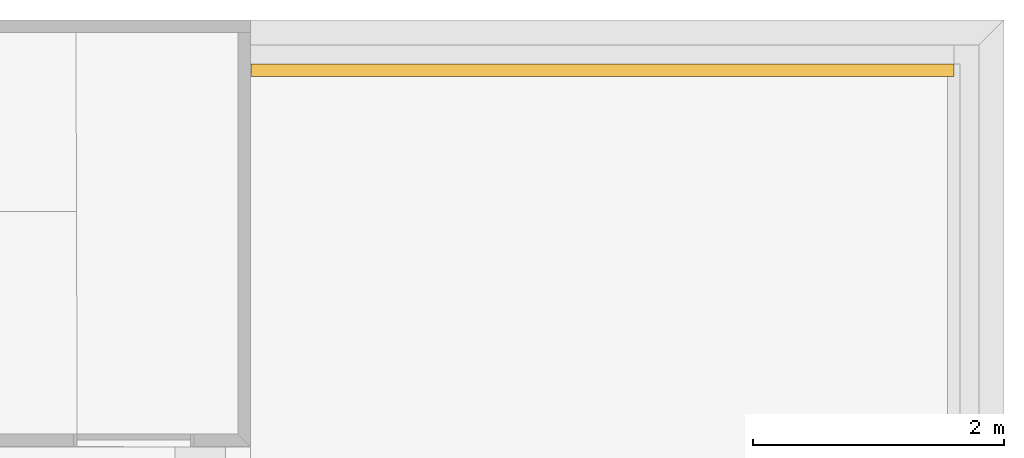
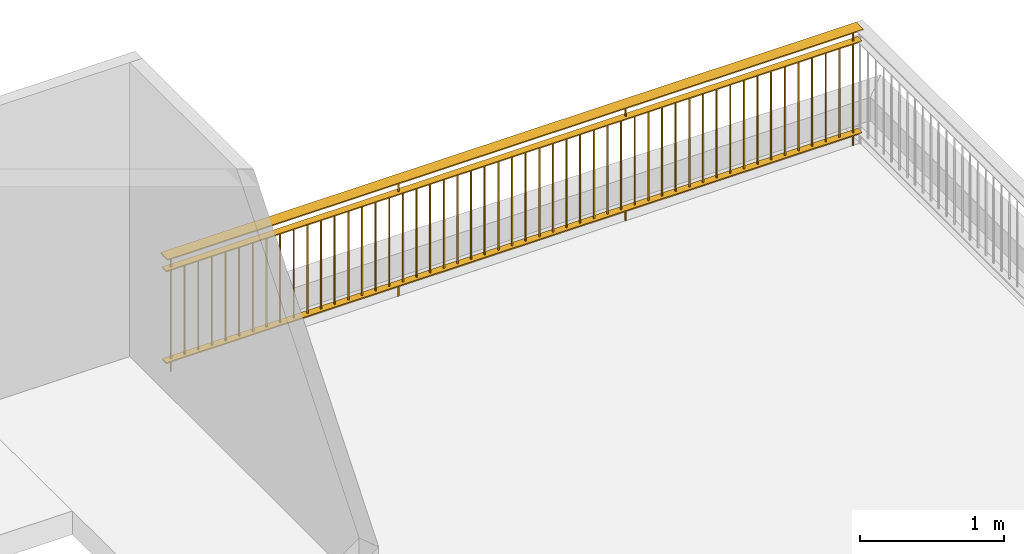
# One storey, part 2 of 2: 1 railing.
"""IFC2X3 building model written with IfcOpenShell, lengths in millimetres."""

from ifc_helpers import new_model, entity, si_unit, converted_unit, direction, frame, origin_with_axes, place, context, project, spatial, faceted_brep, source, transform, mapped, material, element, save


model = new_model("IFC2X3")

# Units and contexts
model_context = context("Model", 3, precision=1e-05, world=origin_with_axes(), true_north=direction((0.0, 1.0)))
ifc_project = project(units=[si_unit("LENGTHUNIT", "METRE", prefix="MILLI"), si_unit("AREAUNIT", "SQUARE_METRE"), si_unit("VOLUMEUNIT", "CUBIC_METRE"), converted_unit("PLANEANGLEUNIT", "DEGREE", entity("IfcPlaneAngleMeasure", 0.017453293), si_unit("PLANEANGLEUNIT", "RADIAN"), dimensions=[0, 0, 0, 0, 0, 0, 0]), si_unit("SOLIDANGLEUNIT", "STERADIAN"), si_unit("MASSUNIT", "GRAM"), si_unit("TIMEUNIT", "SECOND"), si_unit("THERMODYNAMICTEMPERATUREUNIT", "DEGREE_CELSIUS"), si_unit("LUMINOUSINTENSITYUNIT", "LUMEN")], contexts=[model_context])

# Site, building, storey
site_placement = place(None, origin_with_axes())
site = spatial("IfcSite", under=ifc_project, at=site_placement, Name="\x83T\x83C\x83g", CompositionType="ELEMENT")
building_placement = place(site_placement, origin_with_axes())
building = spatial("IfcBuilding", under=site, at=building_placement, Name="Daitec-Sample 201208", CompositionType="ELEMENT")
storey_placement = place(building_placement, frame((0.0, 0.0, 12000.0), z_axis=(0.0, 0.0, 1.0), x_axis=(1.0, 0.0, 0.0)))
storey = spatial("IfcBuildingStorey", under=building, at=storey_placement, Name="RF", CompositionType="ELEMENT", Elevation=12000.0)

# Railing
ifc_material = material(Name="\x94w\x8ci")
shared_shape = source(origin_with_axes(), model_context, "Body", "Brep", [
    faceted_brep([(0.0, -50.0, 990.0), (0.0, -50.0, 1000.0), (-5595.866, -50.0, 1000.0), (-5595.866, -50.0, 990.0), (0.0, 50.0, 990.0), (0.0, 50.0, 1000.0), (-5595.866, 50.0, 1000.0), (-5595.866, 50.0, 990.0)], [[[0, 1, 2, 3]], [[4, 5, 1, 0]], [[1, 5, 6, 2]], [[3, 2, 6, 7]], [[0, 3, 7, 4]], [[7, 6, 5, 4]]]),
    faceted_brep([(0.0, -30.0, 880.0), (0.0, -30.0, 890.0), (-5595.866, -30.0, 890.0), (-5595.866, -30.0, 880.0), (0.0, 30.0, 880.0), (0.0, 30.0, 890.0), (-5595.866, 30.0, 890.0), (-5595.866, 30.0, 880.0)], [[[0, 1, 2, 3]], [[4, 5, 1, 0]], [[1, 5, 6, 2]], [[3, 2, 6, 7]], [[0, 3, 7, 4]], [[7, 6, 5, 4]]]),
    faceted_brep([(0.0, -30.0, 100.0), (0.0, -30.0, 110.0), (-5595.866, -30.0, 110.0), (-5595.866, -30.0, 100.0), (0.0, 30.0, 100.0), (0.0, 30.0, 110.0), (-5595.866, 30.0, 110.0), (-5595.866, 30.0, 100.0)], [[[0, 1, 2, 3]], [[4, 5, 1, 0]], [[1, 5, 6, 2]], [[3, 2, 6, 7]], [[0, 3, 7, 4]], [[7, 6, 5, 4]]]),
    faceted_brep([(-49.861431, -5.0, 110.0), (-49.861431, -5.0, 880.0), (-59.861431, -5.0, 880.0), (-59.861431, -5.0, 110.0), (-49.861431, 5.0, 110.0), (-49.861431, 5.0, 880.0), (-59.861431, 5.0, 880.0), (-59.861431, 5.0, 110.0)], [[[0, 1, 2, 3]], [[4, 5, 1, 0]], [[1, 5, 6, 2]], [[3, 2, 6, 7]], [[0, 3, 7, 4]], [[7, 6, 5, 4]]]),
    faceted_brep([(-159.58429, -5.0, 110.0), (-159.58429, -5.0, 880.0), (-169.58429, -5.0, 880.0), (-169.58429, -5.0, 110.0), (-159.58429, 5.0, 110.0), (-159.58429, 5.0, 880.0), (-169.58429, 5.0, 880.0), (-169.58429, 5.0, 110.0)], [[[0, 1, 2, 3]], [[4, 5, 1, 0]], [[1, 5, 6, 2]], [[3, 2, 6, 7]], [[0, 3, 7, 4]], [[7, 6, 5, 4]]]),
    faceted_brep([(-269.30716, -5.0, 110.0), (-269.30716, -5.0, 880.0), (-279.30716, -5.0, 880.0), (-279.30716, -5.0, 110.0), (-269.30716, 5.0, 110.0), (-269.30716, 5.0, 880.0), (-279.30716, 5.0, 880.0), (-279.30716, 5.0, 110.0)], [[[0, 1, 2, 3]], [[4, 5, 1, 0]], [[1, 5, 6, 2]], [[3, 2, 6, 7]], [[0, 3, 7, 4]], [[7, 6, 5, 4]]]),
    faceted_brep([(-379.03002, -5.0, 110.0), (-379.03002, -5.0, 880.0), (-389.03002, -5.0, 880.0), (-389.03002, -5.0, 110.0), (-379.03002, 5.0, 110.0), (-379.03002, 5.0, 880.0), (-389.03002, 5.0, 880.0), (-389.03002, 5.0, 110.0)], [[[0, 1, 2, 3]], [[4, 5, 1, 0]], [[1, 5, 6, 2]], [[3, 2, 6, 7]], [[0, 3, 7, 4]], [[7, 6, 5, 4]]]),
    faceted_brep([(-488.75288, -5.0, 110.0), (-488.75288, -5.0, 880.0), (-498.75288, -5.0, 880.0), (-498.75288, -5.0, 110.0), (-488.75288, 5.0, 110.0), (-488.75288, 5.0, 880.0), (-498.75288, 5.0, 880.0), (-498.75288, 5.0, 110.0)], [[[0, 1, 2, 3]], [[4, 5, 1, 0]], [[1, 5, 6, 2]], [[3, 2, 6, 7]], [[0, 3, 7, 4]], [[7, 6, 5, 4]]]),
    faceted_brep([(-598.47575, -5.0, 110.0), (-598.47575, -5.0, 880.0), (-608.47575, -5.0, 880.0), (-608.47575, -5.0, 110.0), (-598.47575, 5.0, 110.0), (-598.47575, 5.0, 880.0), (-608.47575, 5.0, 880.0), (-608.47575, 5.0, 110.0)], [[[0, 1, 2, 3]], [[4, 5, 1, 0]], [[1, 5, 6, 2]], [[3, 2, 6, 7]], [[0, 3, 7, 4]], [[7, 6, 5, 4]]]),
    faceted_brep([(-708.19861, -5.0, 110.0), (-708.19861, -5.0, 880.0), (-718.19861, -5.0, 880.0), (-718.19861, -5.0, 110.0), (-708.19861, 5.0, 110.0), (-708.19861, 5.0, 880.0), (-718.19861, 5.0, 880.0), (-718.19861, 5.0, 110.0)], [[[0, 1, 2, 3]], [[4, 5, 1, 0]], [[1, 5, 6, 2]], [[3, 2, 6, 7]], [[0, 3, 7, 4]], [[7, 6, 5, 4]]]),
    faceted_brep([(-817.92147, -5.0, 110.0), (-817.92147, -5.0, 880.0), (-827.92147, -5.0, 880.0), (-827.92147, -5.0, 110.0), (-817.92147, 5.0, 110.0), (-817.92147, 5.0, 880.0), (-827.92147, 5.0, 880.0), (-827.92147, 5.0, 110.0)], [[[0, 1, 2, 3]], [[4, 5, 1, 0]], [[1, 5, 6, 2]], [[3, 2, 6, 7]], [[0, 3, 7, 4]], [[7, 6, 5, 4]]]),
    faceted_brep([(-927.64433, -5.0, 110.0), (-927.64433, -5.0, 880.0), (-937.64433, -5.0, 880.0), (-937.64433, -5.0, 110.0), (-927.64433, 5.0, 110.0), (-927.64433, 5.0, 880.0), (-937.64433, 5.0, 880.0), (-937.64433, 5.0, 110.0)], [[[0, 1, 2, 3]], [[4, 5, 1, 0]], [[1, 5, 6, 2]], [[3, 2, 6, 7]], [[0, 3, 7, 4]], [[7, 6, 5, 4]]]),
    faceted_brep([(-1037.3672, -5.0, 110.0), (-1037.3672, -5.0, 880.0), (-1047.3672, -5.0, 880.0), (-1047.3672, -5.0, 110.0), (-1037.3672, 5.0, 110.0), (-1037.3672, 5.0, 880.0), (-1047.3672, 5.0, 880.0), (-1047.3672, 5.0, 110.0)], [[[0, 1, 2, 3]], [[4, 5, 1, 0]], [[1, 5, 6, 2]], [[3, 2, 6, 7]], [[0, 3, 7, 4]], [[7, 6, 5, 4]]]),
    faceted_brep([(-1147.0901, -5.0, 110.0), (-1147.0901, -5.0, 880.0), (-1157.0901, -5.0, 880.0), (-1157.0901, -5.0, 110.0), (-1147.0901, 5.0, 110.0), (-1147.0901, 5.0, 880.0), (-1157.0901, 5.0, 880.0), (-1157.0901, 5.0, 110.0)], [[[0, 1, 2, 3]], [[4, 5, 1, 0]], [[1, 5, 6, 2]], [[3, 2, 6, 7]], [[0, 3, 7, 4]], [[7, 6, 5, 4]]]),
    faceted_brep([(-1256.8129, -5.0, 110.0), (-1256.8129, -5.0, 880.0), (-1266.8129, -5.0, 880.0), (-1266.8129, -5.0, 110.0), (-1256.8129, 5.0, 110.0), (-1256.8129, 5.0, 880.0), (-1266.8129, 5.0, 880.0), (-1266.8129, 5.0, 110.0)], [[[0, 1, 2, 3]], [[4, 5, 1, 0]], [[1, 5, 6, 2]], [[3, 2, 6, 7]], [[0, 3, 7, 4]], [[7, 6, 5, 4]]]),
    faceted_brep([(-1366.5358, -5.0, 110.0), (-1366.5358, -5.0, 880.0), (-1376.5358, -5.0, 880.0), (-1376.5358, -5.0, 110.0), (-1366.5358, 5.0, 110.0), (-1366.5358, 5.0, 880.0), (-1376.5358, 5.0, 880.0), (-1376.5358, 5.0, 110.0)], [[[0, 1, 2, 3]], [[4, 5, 1, 0]], [[1, 5, 6, 2]], [[3, 2, 6, 7]], [[0, 3, 7, 4]], [[7, 6, 5, 4]]]),
    faceted_brep([(-1476.2586, -5.0, 110.0), (-1476.2586, -5.0, 880.0), (-1486.2586, -5.0, 880.0), (-1486.2586, -5.0, 110.0), (-1476.2586, 5.0, 110.0), (-1476.2586, 5.0, 880.0), (-1486.2586, 5.0, 880.0), (-1486.2586, 5.0, 110.0)], [[[0, 1, 2, 3]], [[4, 5, 1, 0]], [[1, 5, 6, 2]], [[3, 2, 6, 7]], [[0, 3, 7, 4]], [[7, 6, 5, 4]]]),
    faceted_brep([(-1585.9815, -5.0, 110.0), (-1585.9815, -5.0, 880.0), (-1595.9815, -5.0, 880.0), (-1595.9815, -5.0, 110.0), (-1585.9815, 5.0, 110.0), (-1585.9815, 5.0, 880.0), (-1595.9815, 5.0, 880.0), (-1595.9815, 5.0, 110.0)], [[[0, 1, 2, 3]], [[4, 5, 1, 0]], [[1, 5, 6, 2]], [[3, 2, 6, 7]], [[0, 3, 7, 4]], [[7, 6, 5, 4]]]),
    faceted_brep([(-1695.7044, -5.0, 110.0), (-1695.7044, -5.0, 880.0), (-1705.7044, -5.0, 880.0), (-1705.7044, -5.0, 110.0), (-1695.7044, 5.0, 110.0), (-1695.7044, 5.0, 880.0), (-1705.7044, 5.0, 880.0), (-1705.7044, 5.0, 110.0)], [[[0, 1, 2, 3]], [[4, 5, 1, 0]], [[1, 5, 6, 2]], [[3, 2, 6, 7]], [[0, 3, 7, 4]], [[7, 6, 5, 4]]]),
    faceted_brep([(-1805.4272, -5.0, 110.0), (-1805.4272, -5.0, 880.0), (-1815.4272, -5.0, 880.0), (-1815.4272, -5.0, 110.0), (-1805.4272, 5.0, 110.0), (-1805.4272, 5.0, 880.0), (-1815.4272, 5.0, 880.0), (-1815.4272, 5.0, 110.0)], [[[0, 1, 2, 3]], [[4, 5, 1, 0]], [[1, 5, 6, 2]], [[3, 2, 6, 7]], [[0, 3, 7, 4]], [[7, 6, 5, 4]]]),
    faceted_brep([(-1915.1501, -5.0, 110.0), (-1915.1501, -5.0, 880.0), (-1925.1501, -5.0, 880.0), (-1925.1501, -5.0, 110.0), (-1915.1501, 5.0, 110.0), (-1915.1501, 5.0, 880.0), (-1925.1501, 5.0, 880.0), (-1925.1501, 5.0, 110.0)], [[[0, 1, 2, 3]], [[4, 5, 1, 0]], [[1, 5, 6, 2]], [[3, 2, 6, 7]], [[0, 3, 7, 4]], [[7, 6, 5, 4]]]),
    faceted_brep([(-2024.873, -5.0, 110.0), (-2024.873, -5.0, 880.0), (-2034.873, -5.0, 880.0), (-2034.873, -5.0, 110.0), (-2024.873, 5.0, 110.0), (-2024.873, 5.0, 880.0), (-2034.873, 5.0, 880.0), (-2034.873, 5.0, 110.0)], [[[0, 1, 2, 3]], [[4, 5, 1, 0]], [[1, 5, 6, 2]], [[3, 2, 6, 7]], [[0, 3, 7, 4]], [[7, 6, 5, 4]]]),
    faceted_brep([(-2134.5958, -5.0, 110.0), (-2134.5958, -5.0, 880.0), (-2144.5958, -5.0, 880.0), (-2144.5958, -5.0, 110.0), (-2134.5958, 5.0, 110.0), (-2134.5958, 5.0, 880.0), (-2144.5958, 5.0, 880.0), (-2144.5958, 5.0, 110.0)], [[[0, 1, 2, 3]], [[4, 5, 1, 0]], [[1, 5, 6, 2]], [[3, 2, 6, 7]], [[0, 3, 7, 4]], [[7, 6, 5, 4]]]),
    faceted_brep([(-2244.3187, -5.0, 110.0), (-2244.3187, -5.0, 880.0), (-2254.3187, -5.0, 880.0), (-2254.3187, -5.0, 110.0), (-2244.3187, 5.0, 110.0), (-2244.3187, 5.0, 880.0), (-2254.3187, 5.0, 880.0), (-2254.3187, 5.0, 110.0)], [[[0, 1, 2, 3]], [[4, 5, 1, 0]], [[1, 5, 6, 2]], [[3, 2, 6, 7]], [[0, 3, 7, 4]], [[7, 6, 5, 4]]]),
    faceted_brep([(-2354.0416, -5.0, 110.0), (-2354.0416, -5.0, 880.0), (-2364.0416, -5.0, 880.0), (-2364.0416, -5.0, 110.0), (-2354.0416, 5.0, 110.0), (-2354.0416, 5.0, 880.0), (-2364.0416, 5.0, 880.0), (-2364.0416, 5.0, 110.0)], [[[0, 1, 2, 3]], [[4, 5, 1, 0]], [[1, 5, 6, 2]], [[3, 2, 6, 7]], [[0, 3, 7, 4]], [[7, 6, 5, 4]]]),
    faceted_brep([(-2463.7644, -5.0, 110.0), (-2463.7644, -5.0, 880.0), (-2473.7644, -5.0, 880.0), (-2473.7644, -5.0, 110.0), (-2463.7644, 5.0, 110.0), (-2463.7644, 5.0, 880.0), (-2473.7644, 5.0, 880.0), (-2473.7644, 5.0, 110.0)], [[[0, 1, 2, 3]], [[4, 5, 1, 0]], [[1, 5, 6, 2]], [[3, 2, 6, 7]], [[0, 3, 7, 4]], [[7, 6, 5, 4]]]),
    faceted_brep([(-2573.4873, -5.0, 110.0), (-2573.4873, -5.0, 880.0), (-2583.4873, -5.0, 880.0), (-2583.4873, -5.0, 110.0), (-2573.4873, 5.0, 110.0), (-2573.4873, 5.0, 880.0), (-2583.4873, 5.0, 880.0), (-2583.4873, 5.0, 110.0)], [[[0, 1, 2, 3]], [[4, 5, 1, 0]], [[1, 5, 6, 2]], [[3, 2, 6, 7]], [[0, 3, 7, 4]], [[7, 6, 5, 4]]]),
    faceted_brep([(-2683.2101, -5.0, 110.0), (-2683.2101, -5.0, 880.0), (-2693.2101, -5.0, 880.0), (-2693.2101, -5.0, 110.0), (-2683.2101, 5.0, 110.0), (-2683.2101, 5.0, 880.0), (-2693.2101, 5.0, 880.0), (-2693.2101, 5.0, 110.0)], [[[0, 1, 2, 3]], [[4, 5, 1, 0]], [[1, 5, 6, 2]], [[3, 2, 6, 7]], [[0, 3, 7, 4]], [[7, 6, 5, 4]]]),
    faceted_brep([(-2792.933, -5.0, 110.0), (-2792.933, -5.0, 880.0), (-2802.933, -5.0, 880.0), (-2802.933, -5.0, 110.0), (-2792.933, 5.0, 110.0), (-2792.933, 5.0, 880.0), (-2802.933, 5.0, 880.0), (-2802.933, 5.0, 110.0)], [[[0, 1, 2, 3]], [[4, 5, 1, 0]], [[1, 5, 6, 2]], [[3, 2, 6, 7]], [[0, 3, 7, 4]], [[7, 6, 5, 4]]]),
    faceted_brep([(-2902.6559, -5.0, 110.0), (-2902.6559, -5.0, 880.0), (-2912.6559, -5.0, 880.0), (-2912.6559, -5.0, 110.0), (-2902.6559, 5.0, 110.0), (-2902.6559, 5.0, 880.0), (-2912.6559, 5.0, 880.0), (-2912.6559, 5.0, 110.0)], [[[0, 1, 2, 3]], [[4, 5, 1, 0]], [[1, 5, 6, 2]], [[3, 2, 6, 7]], [[0, 3, 7, 4]], [[7, 6, 5, 4]]]),
    faceted_brep([(-3012.3787, -5.0, 110.0), (-3012.3787, -5.0, 880.0), (-3022.3787, -5.0, 880.0), (-3022.3787, -5.0, 110.0), (-3012.3787, 5.0, 110.0), (-3012.3787, 5.0, 880.0), (-3022.3787, 5.0, 880.0), (-3022.3787, 5.0, 110.0)], [[[0, 1, 2, 3]], [[4, 5, 1, 0]], [[1, 5, 6, 2]], [[3, 2, 6, 7]], [[0, 3, 7, 4]], [[7, 6, 5, 4]]]),
    faceted_brep([(-3122.1016, -5.0, 110.0), (-3122.1016, -5.0, 880.0), (-3132.1016, -5.0, 880.0), (-3132.1016, -5.0, 110.0), (-3122.1016, 5.0, 110.0), (-3122.1016, 5.0, 880.0), (-3132.1016, 5.0, 880.0), (-3132.1016, 5.0, 110.0)], [[[0, 1, 2, 3]], [[4, 5, 1, 0]], [[1, 5, 6, 2]], [[3, 2, 6, 7]], [[0, 3, 7, 4]], [[7, 6, 5, 4]]]),
    faceted_brep([(-3231.8245, -5.0, 110.0), (-3231.8245, -5.0, 880.0), (-3241.8245, -5.0, 880.0), (-3241.8245, -5.0, 110.0), (-3231.8245, 5.0, 110.0), (-3231.8245, 5.0, 880.0), (-3241.8245, 5.0, 880.0), (-3241.8245, 5.0, 110.0)], [[[0, 1, 2, 3]], [[4, 5, 1, 0]], [[1, 5, 6, 2]], [[3, 2, 6, 7]], [[0, 3, 7, 4]], [[7, 6, 5, 4]]]),
    faceted_brep([(-3341.5473, -5.0, 110.0), (-3341.5473, -5.0, 880.0), (-3351.5473, -5.0, 880.0), (-3351.5473, -5.0, 110.0), (-3341.5473, 5.0, 110.0), (-3341.5473, 5.0, 880.0), (-3351.5473, 5.0, 880.0), (-3351.5473, 5.0, 110.0)], [[[0, 1, 2, 3]], [[4, 5, 1, 0]], [[1, 5, 6, 2]], [[3, 2, 6, 7]], [[0, 3, 7, 4]], [[7, 6, 5, 4]]]),
    faceted_brep([(-3451.2702, -5.0, 110.0), (-3451.2702, -5.0, 880.0), (-3461.2702, -5.0, 880.0), (-3461.2702, -5.0, 110.0), (-3451.2702, 5.0, 110.0), (-3451.2702, 5.0, 880.0), (-3461.2702, 5.0, 880.0), (-3461.2702, 5.0, 110.0)], [[[0, 1, 2, 3]], [[4, 5, 1, 0]], [[1, 5, 6, 2]], [[3, 2, 6, 7]], [[0, 3, 7, 4]], [[7, 6, 5, 4]]]),
    faceted_brep([(-3560.993, -5.0, 110.0), (-3560.993, -5.0, 880.0), (-3570.993, -5.0, 880.0), (-3570.993, -5.0, 110.0), (-3560.993, 5.0, 110.0), (-3560.993, 5.0, 880.0), (-3570.993, 5.0, 880.0), (-3570.993, 5.0, 110.0)], [[[0, 1, 2, 3]], [[4, 5, 1, 0]], [[1, 5, 6, 2]], [[3, 2, 6, 7]], [[0, 3, 7, 4]], [[7, 6, 5, 4]]]),
    faceted_brep([(-3670.7159, -5.0, 110.0), (-3670.7159, -5.0, 880.0), (-3680.7159, -5.0, 880.0), (-3680.7159, -5.0, 110.0), (-3670.7159, 5.0, 110.0), (-3670.7159, 5.0, 880.0), (-3680.7159, 5.0, 880.0), (-3680.7159, 5.0, 110.0)], [[[0, 1, 2, 3]], [[4, 5, 1, 0]], [[1, 5, 6, 2]], [[3, 2, 6, 7]], [[0, 3, 7, 4]], [[7, 6, 5, 4]]]),
    faceted_brep([(-3780.4388, -5.0, 110.0), (-3780.4388, -5.0, 880.0), (-3790.4388, -5.0, 880.0), (-3790.4388, -5.0, 110.0), (-3780.4388, 5.0, 110.0), (-3780.4388, 5.0, 880.0), (-3790.4388, 5.0, 880.0), (-3790.4388, 5.0, 110.0)], [[[0, 1, 2, 3]], [[4, 5, 1, 0]], [[1, 5, 6, 2]], [[3, 2, 6, 7]], [[0, 3, 7, 4]], [[7, 6, 5, 4]]]),
    faceted_brep([(-3890.1616, -5.0, 110.0), (-3890.1616, -5.0, 880.0), (-3900.1616, -5.0, 880.0), (-3900.1616, -5.0, 110.0), (-3890.1616, 5.0, 110.0), (-3890.1616, 5.0, 880.0), (-3900.1616, 5.0, 880.0), (-3900.1616, 5.0, 110.0)], [[[0, 1, 2, 3]], [[4, 5, 1, 0]], [[1, 5, 6, 2]], [[3, 2, 6, 7]], [[0, 3, 7, 4]], [[7, 6, 5, 4]]]),
    faceted_brep([(-3999.8845, -5.0, 110.0), (-3999.8845, -5.0, 880.0), (-4009.8845, -5.0, 880.0), (-4009.8845, -5.0, 110.0), (-3999.8845, 5.0, 110.0), (-3999.8845, 5.0, 880.0), (-4009.8845, 5.0, 880.0), (-4009.8845, 5.0, 110.0)], [[[0, 1, 2, 3]], [[4, 5, 1, 0]], [[1, 5, 6, 2]], [[3, 2, 6, 7]], [[0, 3, 7, 4]], [[7, 6, 5, 4]]]),
    faceted_brep([(-4109.6074, -5.0, 110.0), (-4109.6074, -5.0, 880.0), (-4119.6074, -5.0, 880.0), (-4119.6074, -5.0, 110.0), (-4109.6074, 5.0, 110.0), (-4109.6074, 5.0, 880.0), (-4119.6074, 5.0, 880.0), (-4119.6074, 5.0, 110.0)], [[[0, 1, 2, 3]], [[4, 5, 1, 0]], [[1, 5, 6, 2]], [[3, 2, 6, 7]], [[0, 3, 7, 4]], [[7, 6, 5, 4]]]),
    faceted_brep([(-4219.3302, -5.0, 110.0), (-4219.3302, -5.0, 880.0), (-4229.3302, -5.0, 880.0), (-4229.3302, -5.0, 110.0), (-4219.3302, 5.0, 110.0), (-4219.3302, 5.0, 880.0), (-4229.3302, 5.0, 880.0), (-4229.3302, 5.0, 110.0)], [[[0, 1, 2, 3]], [[4, 5, 1, 0]], [[1, 5, 6, 2]], [[3, 2, 6, 7]], [[0, 3, 7, 4]], [[7, 6, 5, 4]]]),
    faceted_brep([(-4329.0531, -5.0, 110.0), (-4329.0531, -5.0, 880.0), (-4339.0531, -5.0, 880.0), (-4339.0531, -5.0, 110.0), (-4329.0531, 5.0, 110.0), (-4329.0531, 5.0, 880.0), (-4339.0531, 5.0, 880.0), (-4339.0531, 5.0, 110.0)], [[[0, 1, 2, 3]], [[4, 5, 1, 0]], [[1, 5, 6, 2]], [[3, 2, 6, 7]], [[0, 3, 7, 4]], [[7, 6, 5, 4]]]),
    faceted_brep([(-4438.7759, -5.0, 110.0), (-4438.7759, -5.0, 880.0), (-4448.7759, -5.0, 880.0), (-4448.7759, -5.0, 110.0), (-4438.7759, 5.0, 110.0), (-4438.7759, 5.0, 880.0), (-4448.7759, 5.0, 880.0), (-4448.7759, 5.0, 110.0)], [[[0, 1, 2, 3]], [[4, 5, 1, 0]], [[1, 5, 6, 2]], [[3, 2, 6, 7]], [[0, 3, 7, 4]], [[7, 6, 5, 4]]]),
    faceted_brep([(-4548.4988, -5.0, 110.0), (-4548.4988, -5.0, 880.0), (-4558.4988, -5.0, 880.0), (-4558.4988, -5.0, 110.0), (-4548.4988, 5.0, 110.0), (-4548.4988, 5.0, 880.0), (-4558.4988, 5.0, 880.0), (-4558.4988, 5.0, 110.0)], [[[0, 1, 2, 3]], [[4, 5, 1, 0]], [[1, 5, 6, 2]], [[3, 2, 6, 7]], [[0, 3, 7, 4]], [[7, 6, 5, 4]]]),
    faceted_brep([(-4658.2217, -5.0, 110.0), (-4658.2217, -5.0, 880.0), (-4668.2217, -5.0, 880.0), (-4668.2217, -5.0, 110.0), (-4658.2217, 5.0, 110.0), (-4658.2217, 5.0, 880.0), (-4668.2217, 5.0, 880.0), (-4668.2217, 5.0, 110.0)], [[[0, 1, 2, 3]], [[4, 5, 1, 0]], [[1, 5, 6, 2]], [[3, 2, 6, 7]], [[0, 3, 7, 4]], [[7, 6, 5, 4]]]),
    faceted_brep([(-4767.9445, -5.0, 110.0), (-4767.9445, -5.0, 880.0), (-4777.9445, -5.0, 880.0), (-4777.9445, -5.0, 110.0), (-4767.9445, 5.0, 110.0), (-4767.9445, 5.0, 880.0), (-4777.9445, 5.0, 880.0), (-4777.9445, 5.0, 110.0)], [[[0, 1, 2, 3]], [[4, 5, 1, 0]], [[1, 5, 6, 2]], [[3, 2, 6, 7]], [[0, 3, 7, 4]], [[7, 6, 5, 4]]]),
    faceted_brep([(-4877.6674, -5.0, 110.0), (-4877.6674, -5.0, 880.0), (-4887.6674, -5.0, 880.0), (-4887.6674, -5.0, 110.0), (-4877.6674, 5.0, 110.0), (-4877.6674, 5.0, 880.0), (-4887.6674, 5.0, 880.0), (-4887.6674, 5.0, 110.0)], [[[0, 1, 2, 3]], [[4, 5, 1, 0]], [[1, 5, 6, 2]], [[3, 2, 6, 7]], [[0, 3, 7, 4]], [[7, 6, 5, 4]]]),
    faceted_brep([(-4987.3903, -5.0, 110.0), (-4987.3903, -5.0, 880.0), (-4997.3903, -5.0, 880.0), (-4997.3903, -5.0, 110.0), (-4987.3903, 5.0, 110.0), (-4987.3903, 5.0, 880.0), (-4997.3903, 5.0, 880.0), (-4997.3903, 5.0, 110.0)], [[[0, 1, 2, 3]], [[4, 5, 1, 0]], [[1, 5, 6, 2]], [[3, 2, 6, 7]], [[0, 3, 7, 4]], [[7, 6, 5, 4]]]),
    faceted_brep([(-5097.1131, -5.0, 110.0), (-5097.1131, -5.0, 880.0), (-5107.1131, -5.0, 880.0), (-5107.1131, -5.0, 110.0), (-5097.1131, 5.0, 110.0), (-5097.1131, 5.0, 880.0), (-5107.1131, 5.0, 880.0), (-5107.1131, 5.0, 110.0)], [[[0, 1, 2, 3]], [[4, 5, 1, 0]], [[1, 5, 6, 2]], [[3, 2, 6, 7]], [[0, 3, 7, 4]], [[7, 6, 5, 4]]]),
    faceted_brep([(-5206.836, -5.0, 110.0), (-5206.836, -5.0, 880.0), (-5216.836, -5.0, 880.0), (-5216.836, -5.0, 110.0), (-5206.836, 5.0, 110.0), (-5206.836, 5.0, 880.0), (-5216.836, 5.0, 880.0), (-5216.836, 5.0, 110.0)], [[[0, 1, 2, 3]], [[4, 5, 1, 0]], [[1, 5, 6, 2]], [[3, 2, 6, 7]], [[0, 3, 7, 4]], [[7, 6, 5, 4]]]),
    faceted_brep([(-5316.5588, -5.0, 110.0), (-5316.5588, -5.0, 880.0), (-5326.5588, -5.0, 880.0), (-5326.5588, -5.0, 110.0), (-5316.5588, 5.0, 110.0), (-5316.5588, 5.0, 880.0), (-5326.5588, 5.0, 880.0), (-5326.5588, 5.0, 110.0)], [[[0, 1, 2, 3]], [[4, 5, 1, 0]], [[1, 5, 6, 2]], [[3, 2, 6, 7]], [[0, 3, 7, 4]], [[7, 6, 5, 4]]]),
    faceted_brep([(-5426.2817, -5.0, 110.0), (-5426.2817, -5.0, 880.0), (-5436.2817, -5.0, 880.0), (-5436.2817, -5.0, 110.0), (-5426.2817, 5.0, 110.0), (-5426.2817, 5.0, 880.0), (-5436.2817, 5.0, 880.0), (-5436.2817, 5.0, 110.0)], [[[0, 1, 2, 3]], [[4, 5, 1, 0]], [[1, 5, 6, 2]], [[3, 2, 6, 7]], [[0, 3, 7, 4]], [[7, 6, 5, 4]]]),
    faceted_brep([(-5536.0046, -5.0, 110.0), (-5536.0046, -5.0, 880.0), (-5546.0046, -5.0, 880.0), (-5546.0046, -5.0, 110.0), (-5536.0046, 5.0, 110.0), (-5536.0046, 5.0, 880.0), (-5546.0046, 5.0, 880.0), (-5546.0046, 5.0, 110.0)], [[[0, 1, 2, 3]], [[4, 5, 1, 0]], [[1, 5, 6, 2]], [[3, 2, 6, 7]], [[0, 3, 7, 4]], [[7, 6, 5, 4]]]),
    faceted_brep([(-49.861431, -5.0, 0.0), (-49.861431, -5.0, 100.0), (-59.861431, -5.0, 100.0), (-59.861431, -5.0, 0.0), (-49.861431, 5.0, 0.0), (-49.861431, 5.0, 100.0), (-59.861431, 5.0, 100.0), (-59.861431, 5.0, 0.0)], [[[0, 1, 2, 3]], [[4, 5, 1, 0]], [[1, 5, 6, 2]], [[3, 2, 6, 7]], [[0, 3, 7, 4]], [[7, 6, 5, 4]]]),
    faceted_brep([(-1878.5758, -5.0, 0.0), (-1878.5758, -5.0, 100.0), (-1888.5758, -5.0, 100.0), (-1888.5758, -5.0, 0.0), (-1878.5758, 5.0, 0.0), (-1878.5758, 5.0, 100.0), (-1888.5758, 5.0, 100.0), (-1888.5758, 5.0, 0.0)], [[[0, 1, 2, 3]], [[4, 5, 1, 0]], [[1, 5, 6, 2]], [[3, 2, 6, 7]], [[0, 3, 7, 4]], [[7, 6, 5, 4]]]),
    faceted_brep([(-3707.2902, -5.0, 0.0), (-3707.2902, -5.0, 100.0), (-3717.2902, -5.0, 100.0), (-3717.2902, -5.0, 0.0), (-3707.2902, 5.0, 0.0), (-3707.2902, 5.0, 100.0), (-3717.2902, 5.0, 100.0), (-3717.2902, 5.0, 0.0)], [[[0, 1, 2, 3]], [[4, 5, 1, 0]], [[1, 5, 6, 2]], [[3, 2, 6, 7]], [[0, 3, 7, 4]], [[7, 6, 5, 4]]]),
    faceted_brep([(-5536.0046, -5.0, 0.0), (-5536.0046, -5.0, 100.0), (-5546.0046, -5.0, 100.0), (-5546.0046, -5.0, 0.0), (-5536.0046, 5.0, 0.0), (-5536.0046, 5.0, 100.0), (-5546.0046, 5.0, 100.0), (-5546.0046, 5.0, 0.0)], [[[0, 1, 2, 3]], [[4, 5, 1, 0]], [[1, 5, 6, 2]], [[3, 2, 6, 7]], [[0, 3, 7, 4]], [[7, 6, 5, 4]]]),
    faceted_brep([(-49.861431, -5.0, 890.0), (-49.861431, -5.0, 990.0), (-59.861431, -5.0, 990.0), (-59.861431, -5.0, 890.0), (-49.861431, 5.0, 890.0), (-49.861431, 5.0, 990.0), (-59.861431, 5.0, 990.0), (-59.861431, 5.0, 890.0)], [[[0, 1, 2, 3]], [[4, 5, 1, 0]], [[1, 5, 6, 2]], [[3, 2, 6, 7]], [[0, 3, 7, 4]], [[7, 6, 5, 4]]]),
    faceted_brep([(-1878.5758, -5.0, 890.0), (-1878.5758, -5.0, 990.0), (-1888.5758, -5.0, 990.0), (-1888.5758, -5.0, 890.0), (-1878.5758, 5.0, 890.0), (-1878.5758, 5.0, 990.0), (-1888.5758, 5.0, 990.0), (-1888.5758, 5.0, 890.0)], [[[0, 1, 2, 3]], [[4, 5, 1, 0]], [[1, 5, 6, 2]], [[3, 2, 6, 7]], [[0, 3, 7, 4]], [[7, 6, 5, 4]]]),
    faceted_brep([(-3707.2902, -5.0, 890.0), (-3707.2902, -5.0, 990.0), (-3717.2902, -5.0, 990.0), (-3717.2902, -5.0, 890.0), (-3707.2902, 5.0, 890.0), (-3707.2902, 5.0, 990.0), (-3717.2902, 5.0, 990.0), (-3717.2902, 5.0, 890.0)], [[[0, 1, 2, 3]], [[4, 5, 1, 0]], [[1, 5, 6, 2]], [[3, 2, 6, 7]], [[0, 3, 7, 4]], [[7, 6, 5, 4]]]),
    faceted_brep([(-5536.0046, -5.0, 890.0), (-5536.0046, -5.0, 990.0), (-5546.0046, -5.0, 990.0), (-5546.0046, -5.0, 890.0), (-5536.0046, 5.0, 890.0), (-5536.0046, 5.0, 990.0), (-5546.0046, 5.0, 990.0), (-5546.0046, 5.0, 890.0)], [[[0, 1, 2, 3]], [[4, 5, 1, 0]], [[1, 5, 6, 2]], [[3, 2, 6, 7]], [[0, 3, 7, 4]], [[7, 6, 5, 4]]]),
])
railing_placement = place(storey_placement, frame((36500.0, 23400.0, 0.0), z_axis=(0.0, 0.0, 1.0), x_axis=(1.0, 0.0, 0.0)))
element("IfcRailing", 1, at=railing_placement, inside=storey, material=ifc_material, Name="O8", PredefinedType="NOTDEFINED", context=model_context, shape_type="MappedRepresentation", body=[
    mapped(shared_shape, transform((0.0, 0.0, 0.0))),
])

save(model, "model.ifc")
